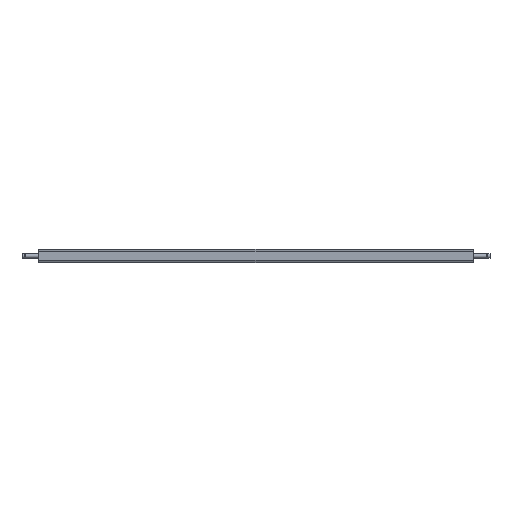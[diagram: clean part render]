
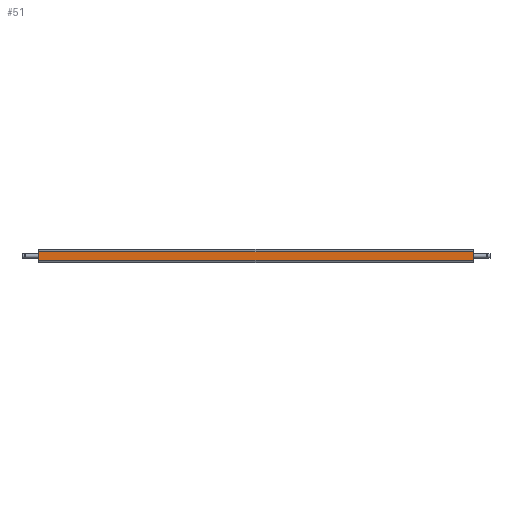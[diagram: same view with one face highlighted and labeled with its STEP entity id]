
A CAD part, top view. The second image highlights one B-rep face of the part: STEP entity #51.
In plain terms, the highlighted planar face has unit normal (0, 0, 1).
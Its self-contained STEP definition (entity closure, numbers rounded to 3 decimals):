
#12=B_SPLINE_CURVE_WITH_KNOTS('',1,(#592,#593),.UNSPECIFIED.,.F.,.F.,(2,
2),(0.,1104.),.UNSPECIFIED.);
#15=B_SPLINE_CURVE_WITH_KNOTS('',1,(#598,#599),.UNSPECIFIED.,.F.,.F.,(2,
2),(-2.,-1.),.UNSPECIFIED.);
#16=B_SPLINE_CURVE_WITH_KNOTS('',1,(#600,#601),.UNSPECIFIED.,.F.,.F.,(2,
2),(0.,1104.),.UNSPECIFIED.);
#17=B_SPLINE_CURVE_WITH_KNOTS('',1,(#602,#603),.UNSPECIFIED.,.F.,.F.,(2,
2),(-2.,-1.),.UNSPECIFIED.);
#51=ADVANCED_FACE('',(#73),#281,.T.);
#73=FACE_OUTER_BOUND('',#95,.T.);
#95=EDGE_LOOP('',(#152,#153,#154,#155));
#152=ORIENTED_EDGE('',*,*,#200,.T.);
#153=ORIENTED_EDGE('',*,*,#201,.T.);
#154=ORIENTED_EDGE('',*,*,#202,.F.);
#155=ORIENTED_EDGE('',*,*,#197,.F.);
#197=EDGE_CURVE('',#265,#266,#12,.T.);
#200=EDGE_CURVE('',#265,#268,#15,.T.);
#201=EDGE_CURVE('',#268,#269,#16,.T.);
#202=EDGE_CURVE('',#266,#269,#17,.T.);
#265=VERTEX_POINT('',#583);
#266=VERTEX_POINT('',#584);
#268=VERTEX_POINT('',#586);
#269=VERTEX_POINT('',#587);
#281=PLANE('',#415);
#415=AXIS2_PLACEMENT_3D('',#577,#472,$);
#472=DIRECTION('',(0.,0.,1.));
#577=CARTESIAN_POINT('',(552.,-10.447,9.9));
#583=CARTESIAN_POINT('',(552.,-10.447,9.9));
#584=CARTESIAN_POINT('',(-552.,-10.447,9.9));
#586=CARTESIAN_POINT('',(552.,10.447,9.9));
#587=CARTESIAN_POINT('',(-552.,10.447,9.9));
#592=CARTESIAN_POINT('',(552.,-10.447,9.9));
#593=CARTESIAN_POINT('',(-552.,-10.447,9.9));
#598=CARTESIAN_POINT('',(552.,-10.447,9.9));
#599=CARTESIAN_POINT('',(552.,10.447,9.9));
#600=CARTESIAN_POINT('',(552.,10.447,9.9));
#601=CARTESIAN_POINT('',(-552.,10.447,9.9));
#602=CARTESIAN_POINT('',(-552.,-10.447,9.9));
#603=CARTESIAN_POINT('',(-552.,10.447,9.9));
